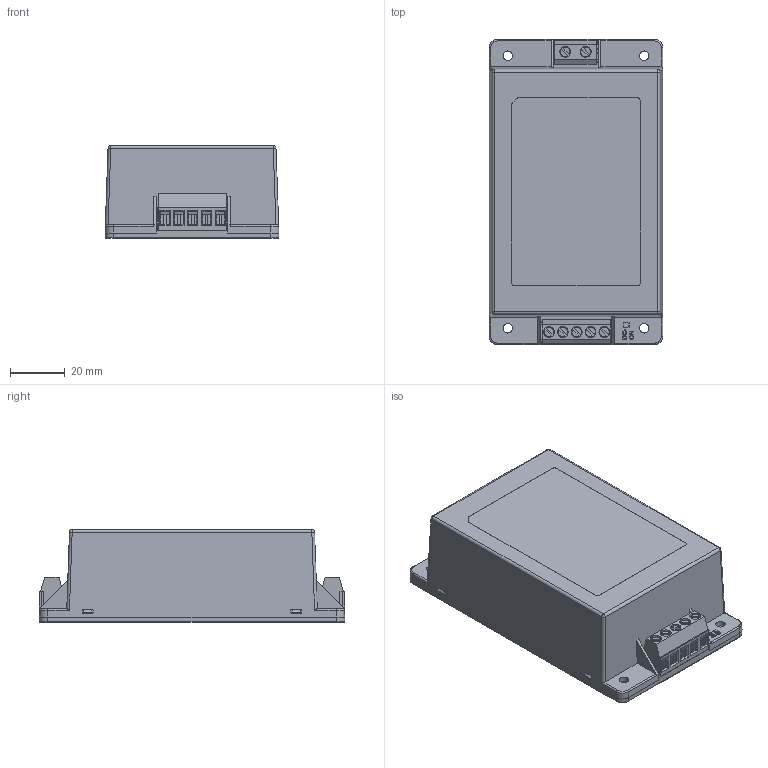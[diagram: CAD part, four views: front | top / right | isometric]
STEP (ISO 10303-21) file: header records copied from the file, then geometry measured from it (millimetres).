
FILE_DESCRIPTION(/* description */ (''),/* implementation_level */ '2;1');
FILE_NAME(/* name */ 'C:\Users\CALLIOPE\Documents\Inventor\AC TO DC\AQF-30\3D\X2\5C3A5BF8591689C0\X0\\型錄用-STEP檔\APM-40 Chassis Mounting.stp',/* time_stamp */ '2015-03-13T08:15:08+08:00',/* author */ ('CALLIOPE'),/* organization */ (''),/* preprocessor_version */ 'ST-DEVELOPER v15.6',/* originating_system */ 'Autodesk Inventor 2015',/* authorisation */ '');
FILE_SCHEMA (('AUTOMOTIVE_DESIGN { 1 0 10303 214 3 1 1 }'));
Length unit declared in the file: millimetre
Products named in the file (5): Connect(5 PIN); Connect(2 PIN); APM-40 Chassis BASE; APM-40 Chassis CASE; APM-40 Chassis Mounting
Assembly tree (4 placements, depth 2):
  APM-40 Chassis Mounting
    Connect(5 PIN)
    Connect(2 PIN)
    APM-40 Chassis BASE
    APM-40 Chassis CASE
Bounding box: 63.8 x 112 x 34.1 mm (x, y, z)
Volume: 168184.2 mm3; surface area: 46275.2 mm2
Topology: 5 solids, 5 shells, 626 faces, 1624 edges, 1068 vertices
Faces by surface type: plane 439, cylinder 144, bspline 32, torus 4, sphere 4, cone 3
Full cylindrical faces by diameter (mm): 1.3 x4, 2.5 x1, 3.4 x4, 3.5 x8, 4 x8, 4.1 x2, 6.5 x1, 8.6 x1
Entity records: 19282 total; most frequent: CARTESIAN_POINT 3847, ORIENTED_EDGE 3158, DIRECTION 3032, EDGE_CURVE 1579, LINE 1220, VECTOR 1220, VERTEX_POINT 1059, AXIS2_PLACEMENT_3D 906
